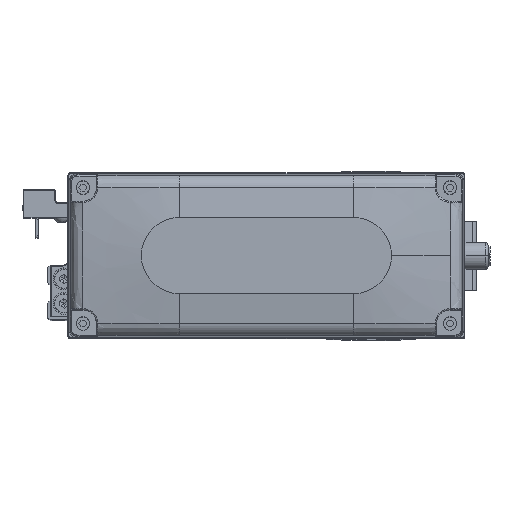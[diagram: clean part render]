
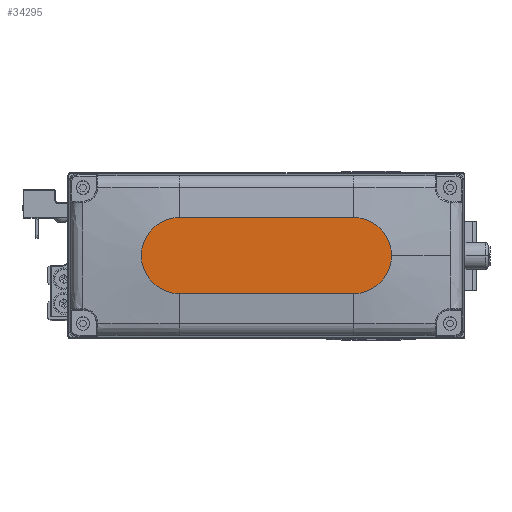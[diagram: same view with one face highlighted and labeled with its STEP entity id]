
A CAD part, top view. The second image highlights one B-rep face of the part: STEP entity #34295.
In plain terms, the highlighted planar face has unit normal (0, 0, 1).
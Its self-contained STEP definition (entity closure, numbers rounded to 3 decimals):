
#61 = CARTESIAN_POINT ( 'NONE',  ( -32., 14., 35. ) ) ;
#2893 = DIRECTION ( 'NONE',  ( 1., 0., 0. ) ) ;
#2989 = AXIS2_PLACEMENT_3D ( 'NONE', #19522, #32832, #2893 ) ;
#4152 = VERTEX_POINT ( 'NONE', #43165 ) ;
#5402 = EDGE_CURVE ( 'NONE', #23054, #13729, #7910, .T. ) ;
#5483 = CARTESIAN_POINT ( 'NONE',  ( 46., 0., 35. ) ) ;
#5577 = CARTESIAN_POINT ( 'NONE',  ( 32., 0., 35. ) ) ;
#6516 = EDGE_CURVE ( 'NONE', #4152, #21530, #30011, .T. ) ;
#7228 = AXIS2_PLACEMENT_3D ( 'NONE', #5577, #18958, #32270 ) ;
#7910 = LINE ( 'NONE', #21267, #8131 ) ;
#8131 = VECTOR ( 'NONE', #34576, 1000. ) ;
#8417 = DIRECTION ( 'NONE',  ( 1., 0., 0. ) ) ;
#8522 = EDGE_LOOP ( 'NONE', ( #24279, #25061, #21319, #21478, #17130 ) ) ;
#10743 = DIRECTION ( 'NONE',  ( 0., 0., 1. ) ) ;
#13415 = DIRECTION ( 'NONE',  ( -1., 0., 0. ) ) ;
#13729 = VERTEX_POINT ( 'NONE', #23346 ) ;
#14009 = FACE_OUTER_BOUND ( 'NONE', #8522, .T. ) ;
#15752 = EDGE_CURVE ( 'NONE', #21530, #23054, #21860, .T. ) ;
#15839 = CARTESIAN_POINT ( 'NONE',  ( -32., -14., 35. ) ) ;
#17130 = ORIENTED_EDGE ( 'NONE', *, *, #18619, .T. ) ;
#17952 = VERTEX_POINT ( 'NONE', #5483 ) ;
#18619 = EDGE_CURVE ( 'NONE', #17952, #4152, #42683, .T. ) ;
#18958 = DIRECTION ( 'NONE',  ( 0., 0., 1. ) ) ;
#19522 = CARTESIAN_POINT ( 'NONE',  ( -32., 0., 35. ) ) ;
#21267 = CARTESIAN_POINT ( 'NONE',  ( -32., -14., 35. ) ) ;
#21319 = ORIENTED_EDGE ( 'NONE', *, *, #5402, .T. ) ;
#21478 = ORIENTED_EDGE ( 'NONE', *, *, #33709, .T. ) ;
#21530 = VERTEX_POINT ( 'NONE', #40188 ) ;
#21860 = CIRCLE ( 'NONE', #2989, 14. ) ;
#23054 = VERTEX_POINT ( 'NONE', #15839 ) ;
#23346 = CARTESIAN_POINT ( 'NONE',  ( 32., -14., 35. ) ) ;
#23833 = AXIS2_PLACEMENT_3D ( 'NONE', #25031, #38357, #8417 ) ;
#24078 = DIRECTION ( 'NONE',  ( 1., 0., 0. ) ) ;
#24279 = ORIENTED_EDGE ( 'NONE', *, *, #6516, .T. ) ;
#25031 = CARTESIAN_POINT ( 'NONE',  ( 32., 0., 35. ) ) ;
#25061 = ORIENTED_EDGE ( 'NONE', *, *, #15752, .T. ) ;
#26081 = CIRCLE ( 'NONE', #7228, 14. ) ;
#27338 = PLANE ( 'NONE',  #31017 ) ;
#30011 = LINE ( 'NONE', #61, #36276 ) ;
#31017 = AXIS2_PLACEMENT_3D ( 'NONE', #40677, #10743, #24078 ) ;
#32270 = DIRECTION ( 'NONE',  ( 1., 0., 0. ) ) ;
#32832 = DIRECTION ( 'NONE',  ( 0., 0., 1. ) ) ;
#33709 = EDGE_CURVE ( 'NONE', #13729, #17952, #26081, .T. ) ;
#34295 = ADVANCED_FACE ( 'NONE', ( #14009 ), #27338, .T. ) ;
#34576 = DIRECTION ( 'NONE',  ( 1., 0., 0. ) ) ;
#36276 = VECTOR ( 'NONE', #13415, 1000. ) ;
#38357 = DIRECTION ( 'NONE',  ( 0., 0., 1. ) ) ;
#40188 = CARTESIAN_POINT ( 'NONE',  ( -32., 14., 35. ) ) ;
#40677 = CARTESIAN_POINT ( 'NONE',  ( 0., 0., 35. ) ) ;
#42683 = CIRCLE ( 'NONE', #23833, 14. ) ;
#43165 = CARTESIAN_POINT ( 'NONE',  ( 32., 14., 35. ) ) ;
